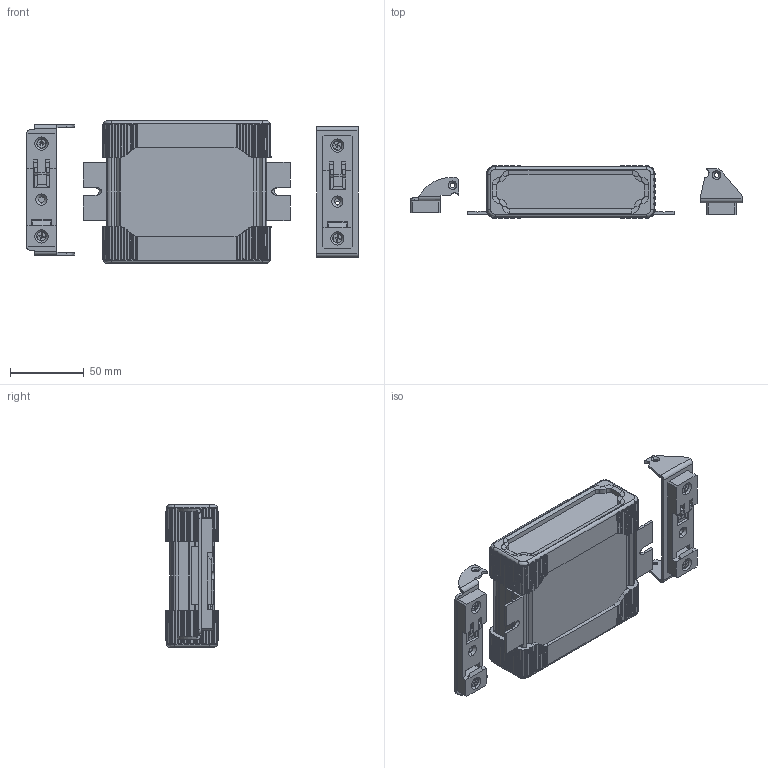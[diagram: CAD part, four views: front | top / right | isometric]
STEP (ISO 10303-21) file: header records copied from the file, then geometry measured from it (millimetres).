
FILE_DESCRIPTION (( 'STEP AP214' ), '1' );
FILE_NAME ('B2-080 Assembly.STEP', '2025-06-05T01:51:45', ( '' ), ( '' ), 'SwSTEP 2.0', 'SolidWorks 2025', '' );
FILE_SCHEMA (( 'AUTOMOTIVE_DESIGN' ));
Length unit declared in the file: inch
Products named in the file (18): Torx Screw M3X0.5; BRH080 assembly; SK1 Seal; spring; SEALING WASHER; EC2_END_CAP_OPTIONAL_ACCESSORY; CR-FHMS 0.138-32x0.375x0.375-N_CR-FHMS 0.138-32x0.375x0.375-N; End Plate; Clamp mechanism; BRV080; BRH080; BRV080 assembly; Screw assembly; 6-32 PEM Nut; Pusher; B2-080 Assembly; B2-080 Main Body; MF-40
Assembly tree (37 placements, depth 3):
  B2-080 Assembly
    B2-080 Main Body
    SK1 Seal  x2
    End Plate  x2
    Screw assembly  x8
      SEALING WASHER
      Torx Screw M3X0.5
    EC2_END_CAP_OPTIONAL_ACCESSORY  x2
    MF-40  x2
    BRH080 assembly
      Clamp mechanism
      BRH080
      Pusher
      spring
      6-32 PEM Nut  x2
      CR-FHMS 0.138-32x0.375x0.375-N_CR-FHMS 0.138-32x0.375x0.375-N  x2
    BRV080 assembly
      Clamp mechanism
      Pusher
      spring
      6-32 PEM Nut  x2
      CR-FHMS 0.138-32x0.375x0.375-N_CR-FHMS 0.138-32x0.375x0.375-N  x2
      BRV080
Bounding box: 225.25 x 36 x 96.5 mm (x, y, z)
Volume: 135373.5 mm3; surface area: 134708.5 mm2
Topology: 41 solids, 41 shells, 2664 faces, 6810 edges, 4266 vertices
Faces by surface type: cylinder 868, plane 814, bspline 646, cone 300, torus 36
Entity records: 68360 total; most frequent: CARTESIAN_POINT 26699, ORIENTED_EDGE 7406, DIRECTION 5655, EDGE_CURVE 3703, VERTEX_POINT 2336, AXIS2_PLACEMENT_3D 1976, LINE 1703, VECTOR 1703
